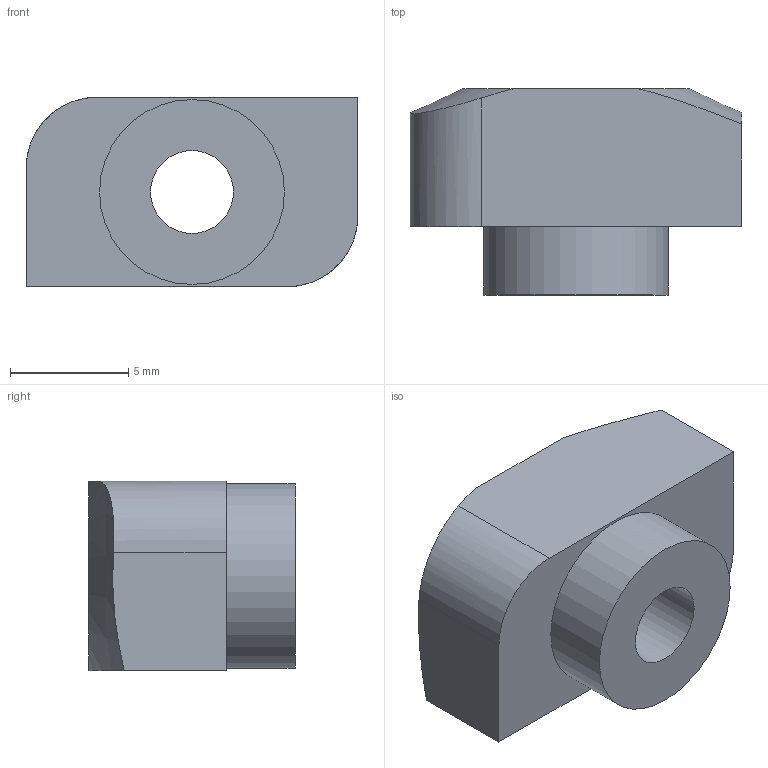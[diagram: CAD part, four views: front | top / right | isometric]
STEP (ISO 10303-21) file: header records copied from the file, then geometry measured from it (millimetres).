
FILE_DESCRIPTION(/* description */ (''),/* implementation_level */ '2;1');
FILE_NAME(/* name */ 'C:\Users\daniele.berto\Desktop\N21-08-M4B.stp',/* time_stamp */ '2022-07-06T07:27:18+02:00',/* author */ ('daniele.berto'),/* organization */ (''),/* preprocessor_version */ 'ST-DEVELOPER v18.1',/* originating_system */ 'Autodesk Inventor 2021',/* authorisation */ '');
FILE_SCHEMA (('CONFIG_CONTROL_DESIGN'));
Length unit declared in the file: millimetre
Products named in the file (1): 5036
Bounding box: 14 x 8.7 x 8 mm (x, y, z)
Volume: 659.7 mm3; surface area: 582.1 mm2
Topology: 1 solids, 1 shells, 13 faces, 30 edges, 20 vertices
Faces by surface type: plane 7, cylinder 4, cone 2
Full cylindrical faces by diameter (mm): 3.5 x1, 7.8 x1
Entity records: 433 total; most frequent: CARTESIAN_POINT 102, ORIENTED_EDGE 60, DIRECTION 58, EDGE_CURVE 30, AXIS2_PLACEMENT_3D 22, VERTEX_POINT 20, EDGE_LOOP 16, LINE 14
